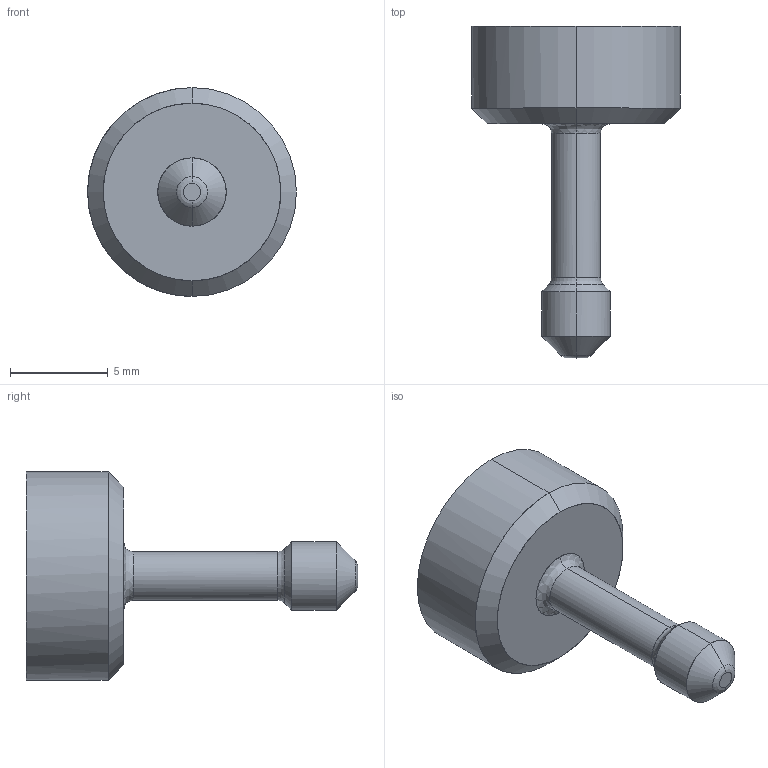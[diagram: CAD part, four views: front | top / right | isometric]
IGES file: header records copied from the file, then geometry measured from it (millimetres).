
Start section: START RECORD GO HERE.
Global section: file name: ia100724.igs; native system: DASSAULT SYSTEMES CATIA V5 R20 - www.3ds.com; preprocessor: CATIA Version 5 Release 20 ; author: Utente; organization: NB04-ASUS; date: 20201108.074414; units: millimetre
Bounding box: 10.7 x 17 x 10.7 mm (x, y, z)
Surface area: 450 mm2 (no closed solid volume)
Topology: 0 solids, 0 shells, 64 faces, 314 edges, 314 vertices
Faces by surface type: plane 31, revolution 24, bspline 9
